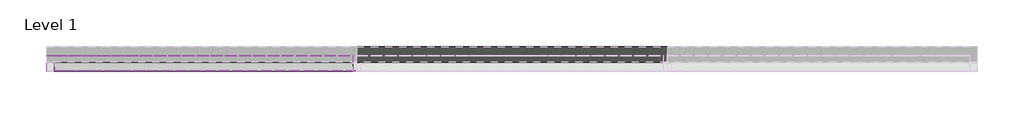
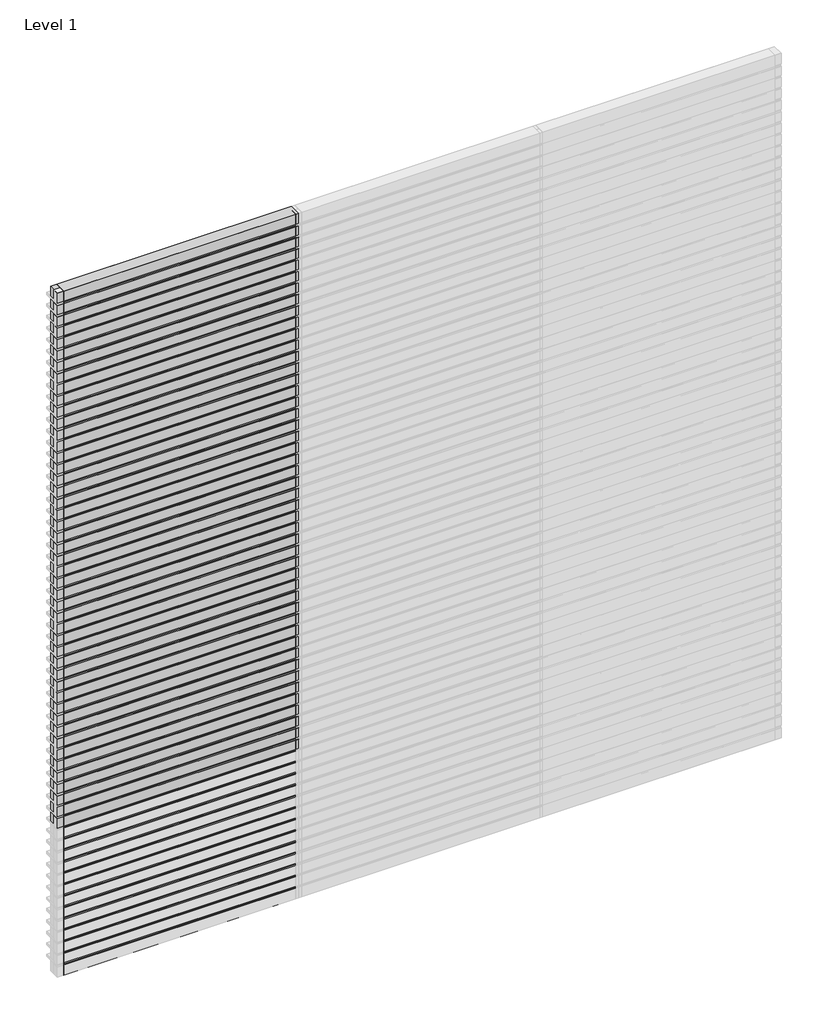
# One storey, part 2 of 6: 107 plates, 20 members.
"""IFC4 building model written with IfcOpenShell, lengths in millimetres."""

from ifc_helpers import new_model, si_unit, origin, place, context, project, spatial, transform, mapped, element, save
from components import rectangular_mullion_30cdfca6, empty_system_panel_empty_51cbbd14, empty_system_panel_empty_86242385, empty_system_panel_empty_20ea7497

model = new_model("IFC4")

# Units and contexts
model_context = context("Model", 3, world=origin())
ifc_project = project(units=[si_unit("LENGTHUNIT", "METRE", prefix="MILLI")], contexts=[model_context])

# Site, building, storey
site = spatial("IfcSite", under=ifc_project)
building = spatial("IfcBuilding", under=site)
storey = spatial("IfcBuildingStorey", under=building, Name="Level 1", Elevation=0.0)

# Members
placement = place(None, origin())
rectangular_mullion_shape = rectangular_mullion_30cdfca6(model_context)
element("IfcMember", 1, ObjectType="Rectangular Mullion : RSen_21_CWM_blade - cubic 100 - 0°_gen_duco projects", at=placement, inside=storey, context=model_context, shape_type="MappedRepresentation", body=[
    mapped(rectangular_mullion_shape, transform((2000.0, 3000.0, 100.0), x_axis=(0.0, 0.0, 1.0), y_axis=(0.0, 1.0, 0.0), z_axis=(-1.0, 0.0, 0.0))),
])
element("IfcMember", 2, ObjectType="Rectangular Mullion : RSen_21_CWM_blade - cubic 100 - 0°_gen_duco projects", at=placement, inside=storey, context=model_context, shape_type="MappedRepresentation", body=[
    mapped(rectangular_mullion_shape, transform((2000.0, 3000.0, 200.0), x_axis=(0.0, 0.0, 1.0), y_axis=(0.0, 1.0, 0.0), z_axis=(-1.0, 0.0, 0.0))),
])
element("IfcMember", 3, ObjectType="Rectangular Mullion : RSen_21_CWM_blade - cubic 100 - 0°_gen_duco projects", at=placement, inside=storey, context=model_context, shape_type="MappedRepresentation", body=[
    mapped(rectangular_mullion_shape, transform((2000.0, 3000.0, 300.0), x_axis=(0.0, 0.0, 1.0), y_axis=(0.0, 1.0, 0.0), z_axis=(-1.0, 0.0, 0.0))),
])
element("IfcMember", 4, ObjectType="Rectangular Mullion : RSen_21_CWM_blade - cubic 100 - 0°_gen_duco projects", at=placement, inside=storey, context=model_context, shape_type="MappedRepresentation", body=[
    mapped(rectangular_mullion_shape, transform((2000.0, 3000.0, 400.0), x_axis=(0.0, 0.0, 1.0), y_axis=(0.0, 1.0, 0.0), z_axis=(-1.0, 0.0, 0.0))),
])
element("IfcMember", 5, ObjectType="Rectangular Mullion : RSen_21_CWM_blade - cubic 100 - 0°_gen_duco projects", at=placement, inside=storey, context=model_context, shape_type="MappedRepresentation", body=[
    mapped(rectangular_mullion_shape, transform((2000.0, 3000.0, 500.0), x_axis=(0.0, 0.0, 1.0), y_axis=(0.0, 1.0, 0.0), z_axis=(-1.0, 0.0, 0.0))),
])
element("IfcMember", 6, ObjectType="Rectangular Mullion : RSen_21_CWM_blade - cubic 100 - 0°_gen_duco projects", at=placement, inside=storey, context=model_context, shape_type="MappedRepresentation", body=[
    mapped(rectangular_mullion_shape, transform((2000.0, 3000.0, 600.0), x_axis=(0.0, 0.0, 1.0), y_axis=(0.0, 1.0, 0.0), z_axis=(-1.0, 0.0, 0.0))),
])
element("IfcMember", 7, ObjectType="Rectangular Mullion : RSen_21_CWM_blade - cubic 100 - 0°_gen_duco projects", at=placement, inside=storey, context=model_context, shape_type="MappedRepresentation", body=[
    mapped(rectangular_mullion_shape, transform((2000.0, 3000.0, 700.0), x_axis=(0.0, 0.0, 1.0), y_axis=(0.0, 1.0, 0.0), z_axis=(-1.0, 0.0, 0.0))),
])
element("IfcMember", 8, ObjectType="Rectangular Mullion : RSen_21_CWM_blade - cubic 100 - 0°_gen_duco projects", at=placement, inside=storey, context=model_context, shape_type="MappedRepresentation", body=[
    mapped(rectangular_mullion_shape, transform((2000.0, 3000.0, 800.0), x_axis=(0.0, 0.0, 1.0), y_axis=(0.0, 1.0, 0.0), z_axis=(-1.0, 0.0, 0.0))),
])
element("IfcMember", 9, ObjectType="Rectangular Mullion : RSen_21_CWM_blade - cubic 100 - 0°_gen_duco projects", at=placement, inside=storey, context=model_context, shape_type="MappedRepresentation", body=[
    mapped(rectangular_mullion_shape, transform((2000.0, 3000.0, 900.0), x_axis=(0.0, 0.0, 1.0), y_axis=(0.0, 1.0, 0.0), z_axis=(-1.0, 0.0, 0.0))),
])
element("IfcMember", 10, ObjectType="Rectangular Mullion : RSen_21_CWM_blade - cubic 100 - 0°_gen_duco projects", at=placement, inside=storey, context=model_context, shape_type="MappedRepresentation", body=[
    mapped(rectangular_mullion_shape, transform((2000.0, 3000.0, 1000.0), x_axis=(0.0, 0.0, 1.0), y_axis=(0.0, 1.0, 0.0), z_axis=(-1.0, 0.0, 0.0))),
])
element("IfcMember", 11, ObjectType="Rectangular Mullion : RSen_21_CWM_blade - cubic 100 - 0°_gen_duco projects", at=placement, inside=storey, context=model_context, shape_type="MappedRepresentation", body=[
    mapped(rectangular_mullion_shape, transform((2000.0, 3000.0, 1100.0), x_axis=(0.0, 0.0, 1.0), y_axis=(0.0, 1.0, 0.0), z_axis=(-1.0, 0.0, 0.0))),
])
element("IfcMember", 12, ObjectType="Rectangular Mullion : RSen_21_CWM_blade - cubic 100 - 0°_gen_duco projects", at=placement, inside=storey, context=model_context, shape_type="MappedRepresentation", body=[
    mapped(rectangular_mullion_shape, transform((2000.0, 3000.0, 1200.0), x_axis=(0.0, 0.0, 1.0), y_axis=(0.0, 1.0, 0.0), z_axis=(-1.0, 0.0, 0.0))),
])
element("IfcMember", 13, ObjectType="Rectangular Mullion : RSen_21_CWM_blade - cubic 100 - 0°_gen_duco projects", at=placement, inside=storey, context=model_context, shape_type="MappedRepresentation", body=[
    mapped(rectangular_mullion_shape, transform((2000.0, 3000.0, 1300.0), x_axis=(0.0, 0.0, 1.0), y_axis=(0.0, 1.0, 0.0), z_axis=(-1.0, 0.0, 0.0))),
])
element("IfcMember", 14, ObjectType="Rectangular Mullion : RSen_21_CWM_blade - cubic 100 - 0°_gen_duco projects", at=placement, inside=storey, context=model_context, shape_type="MappedRepresentation", body=[
    mapped(rectangular_mullion_shape, transform((2000.0, 3000.0, 1400.0), x_axis=(0.0, 0.0, 1.0), y_axis=(0.0, 1.0, 0.0), z_axis=(-1.0, 0.0, 0.0))),
])
element("IfcMember", 15, ObjectType="Rectangular Mullion : RSen_21_CWM_blade - cubic 100 - 0°_gen_duco projects", at=placement, inside=storey, context=model_context, shape_type="MappedRepresentation", body=[
    mapped(rectangular_mullion_shape, transform((2000.0, 3000.0, 1500.0), x_axis=(0.0, 0.0, 1.0), y_axis=(0.0, 1.0, 0.0), z_axis=(-1.0, 0.0, 0.0))),
])
element("IfcMember", 16, ObjectType="Rectangular Mullion : RSen_21_CWM_blade - cubic 100 - 0°_gen_duco projects", at=placement, inside=storey, context=model_context, shape_type="MappedRepresentation", body=[
    mapped(rectangular_mullion_shape, transform((2000.0, 3000.0, 1600.0), x_axis=(0.0, 0.0, 1.0), y_axis=(0.0, 1.0, 0.0), z_axis=(-1.0, 0.0, 0.0))),
])
element("IfcMember", 17, ObjectType="Rectangular Mullion : RSen_21_CWM_blade - cubic 100 - 0°_gen_duco projects", at=placement, inside=storey, context=model_context, shape_type="MappedRepresentation", body=[
    mapped(rectangular_mullion_shape, transform((2000.0, 3000.0, 1700.0), x_axis=(0.0, 0.0, 1.0), y_axis=(0.0, 1.0, 0.0), z_axis=(-1.0, 0.0, 0.0))),
])
element("IfcMember", 18, ObjectType="Rectangular Mullion : RSen_21_CWM_blade - cubic 100 - 0°_gen_duco projects", at=placement, inside=storey, context=model_context, shape_type="MappedRepresentation", body=[
    mapped(rectangular_mullion_shape, transform((2000.0, 3000.0, 1800.0), x_axis=(0.0, 0.0, 1.0), y_axis=(0.0, 1.0, 0.0), z_axis=(-1.0, 0.0, 0.0))),
])
element("IfcMember", 19, ObjectType="Rectangular Mullion : RSen_21_CWM_blade - cubic 100 - 0°_gen_duco projects", at=placement, inside=storey, context=model_context, shape_type="MappedRepresentation", body=[
    mapped(rectangular_mullion_shape, transform((2000.0, 3000.0, 1900.0), x_axis=(0.0, 0.0, 1.0), y_axis=(0.0, 1.0, 0.0), z_axis=(-1.0, 0.0, 0.0))),
])
element("IfcMember", 20, ObjectType="Rectangular Mullion : RSen_21_CWM_blade - cubic 100 - 0°_gen_duco projects", at=placement, inside=storey, context=model_context, shape_type="MappedRepresentation", body=[
    mapped(rectangular_mullion_shape, transform((2000.0, 3000.0, 2000.0), x_axis=(0.0, 0.0, 1.0), y_axis=(0.0, 1.0, 0.0), z_axis=(-1.0, 0.0, 0.0))),
])

# Plates
empty_system_panel_empty_shape = empty_system_panel_empty_51cbbd14(model_context)
element("IfcPlate", 21, ObjectType="Empty System Panel : Empty", at=placement, inside=storey, context=model_context, shape_type="MappedRepresentation", body=[
    mapped(empty_system_panel_empty_shape, transform((1000.0, 3000.0, 5910.0), x_axis=(-1.0, 0.0, 0.0), y_axis=(0.0, -1.0, 0.0), z_axis=(0.0, 0.0, 1.0))),
])
empty_system_panel_empty_2_shape = empty_system_panel_empty_86242385(model_context)
element("IfcPlate", 22, ObjectType="Empty System Panel : Empty", at=placement, inside=storey, context=model_context, shape_type="MappedRepresentation", body=[
    mapped(empty_system_panel_empty_2_shape, transform((1000.0, 3000.0, 1310.0), x_axis=(-1.0, 0.0, 0.0), y_axis=(0.0, -1.0, 0.0), z_axis=(0.0, 0.0, 1.0))),
])
element("IfcPlate", 23, ObjectType="Empty System Panel : Empty", at=placement, inside=storey, context=model_context, shape_type="MappedRepresentation", body=[
    mapped(empty_system_panel_empty_2_shape, transform((1000.0, 3000.0, 1410.0), x_axis=(-1.0, 0.0, 0.0), y_axis=(0.0, -1.0, 0.0), z_axis=(0.0, 0.0, 1.0))),
])
element("IfcPlate", 24, ObjectType="Empty System Panel : Empty", at=placement, inside=storey, context=model_context, shape_type="MappedRepresentation", body=[
    mapped(empty_system_panel_empty_2_shape, transform((1000.0, 3000.0, 1510.0), x_axis=(-1.0, 0.0, 0.0), y_axis=(0.0, -1.0, 0.0), z_axis=(0.0, 0.0, 1.0))),
])
element("IfcPlate", 25, ObjectType="Empty System Panel : Empty", at=placement, inside=storey, context=model_context, shape_type="MappedRepresentation", body=[
    mapped(empty_system_panel_empty_2_shape, transform((1000.0, 3000.0, 1610.0), x_axis=(-1.0, 0.0, 0.0), y_axis=(0.0, -1.0, 0.0), z_axis=(0.0, 0.0, 1.0))),
])
element("IfcPlate", 26, ObjectType="Empty System Panel : Empty", at=placement, inside=storey, context=model_context, shape_type="MappedRepresentation", body=[
    mapped(empty_system_panel_empty_2_shape, transform((1000.0, 3000.0, 1710.0), x_axis=(-1.0, 0.0, 0.0), y_axis=(0.0, -1.0, 0.0), z_axis=(0.0, 0.0, 1.0))),
])
element("IfcPlate", 27, ObjectType="Empty System Panel : Empty", at=placement, inside=storey, context=model_context, shape_type="MappedRepresentation", body=[
    mapped(empty_system_panel_empty_2_shape, transform((1000.0, 3000.0, 1810.0), x_axis=(-1.0, 0.0, 0.0), y_axis=(0.0, -1.0, 0.0), z_axis=(0.0, 0.0, 1.0))),
])
element("IfcPlate", 28, ObjectType="Empty System Panel : Empty", at=placement, inside=storey, context=model_context, shape_type="MappedRepresentation", body=[
    mapped(empty_system_panel_empty_2_shape, transform((1000.0, 3000.0, 1910.0), x_axis=(-1.0, 0.0, 0.0), y_axis=(0.0, -1.0, 0.0), z_axis=(0.0, 0.0, 1.0))),
])
element("IfcPlate", 29, ObjectType="Empty System Panel : Empty", at=placement, inside=storey, context=model_context, shape_type="MappedRepresentation", body=[
    mapped(empty_system_panel_empty_2_shape, transform((1000.0, 3000.0, 2010.0), x_axis=(-1.0, 0.0, 0.0), y_axis=(0.0, -1.0, 0.0), z_axis=(0.0, 0.0, 1.0))),
])
element("IfcPlate", 30, ObjectType="Empty System Panel : Empty", at=placement, inside=storey, context=model_context, shape_type="MappedRepresentation", body=[
    mapped(empty_system_panel_empty_2_shape, transform((1000.0, 3000.0, 2110.0), x_axis=(-1.0, 0.0, 0.0), y_axis=(0.0, -1.0, 0.0), z_axis=(0.0, 0.0, 1.0))),
])
element("IfcPlate", 31, ObjectType="Empty System Panel : Empty", at=placement, inside=storey, context=model_context, shape_type="MappedRepresentation", body=[
    mapped(empty_system_panel_empty_2_shape, transform((1000.0, 3000.0, 2210.0), x_axis=(-1.0, 0.0, 0.0), y_axis=(0.0, -1.0, 0.0), z_axis=(0.0, 0.0, 1.0))),
])
element("IfcPlate", 32, ObjectType="Empty System Panel : Empty", at=placement, inside=storey, context=model_context, shape_type="MappedRepresentation", body=[
    mapped(empty_system_panel_empty_2_shape, transform((1000.0, 3000.0, 2310.0), x_axis=(-1.0, 0.0, 0.0), y_axis=(0.0, -1.0, 0.0), z_axis=(0.0, 0.0, 1.0))),
])
element("IfcPlate", 33, ObjectType="Empty System Panel : Empty", at=placement, inside=storey, context=model_context, shape_type="MappedRepresentation", body=[
    mapped(empty_system_panel_empty_2_shape, transform((1000.0, 3000.0, 2410.0), x_axis=(-1.0, 0.0, 0.0), y_axis=(0.0, -1.0, 0.0), z_axis=(0.0, 0.0, 1.0))),
])
element("IfcPlate", 34, ObjectType="Empty System Panel : Empty", at=placement, inside=storey, context=model_context, shape_type="MappedRepresentation", body=[
    mapped(empty_system_panel_empty_2_shape, transform((1000.0, 3000.0, 2510.0), x_axis=(-1.0, 0.0, 0.0), y_axis=(0.0, -1.0, 0.0), z_axis=(0.0, 0.0, 1.0))),
])
element("IfcPlate", 35, ObjectType="Empty System Panel : Empty", at=placement, inside=storey, context=model_context, shape_type="MappedRepresentation", body=[
    mapped(empty_system_panel_empty_2_shape, transform((1000.0, 3000.0, 2610.0), x_axis=(-1.0, 0.0, 0.0), y_axis=(0.0, -1.0, 0.0), z_axis=(0.0, 0.0, 1.0))),
])
element("IfcPlate", 36, ObjectType="Empty System Panel : Empty", at=placement, inside=storey, context=model_context, shape_type="MappedRepresentation", body=[
    mapped(empty_system_panel_empty_2_shape, transform((1000.0, 3000.0, 2710.0), x_axis=(-1.0, 0.0, 0.0), y_axis=(0.0, -1.0, 0.0), z_axis=(0.0, 0.0, 1.0))),
])
element("IfcPlate", 37, ObjectType="Empty System Panel : Empty", at=placement, inside=storey, context=model_context, shape_type="MappedRepresentation", body=[
    mapped(empty_system_panel_empty_2_shape, transform((1000.0, 3000.0, 2810.0), x_axis=(-1.0, 0.0, 0.0), y_axis=(0.0, -1.0, 0.0), z_axis=(0.0, 0.0, 1.0))),
])
element("IfcPlate", 38, ObjectType="Empty System Panel : Empty", at=placement, inside=storey, context=model_context, shape_type="MappedRepresentation", body=[
    mapped(empty_system_panel_empty_2_shape, transform((1000.0, 3000.0, 2910.0), x_axis=(-1.0, 0.0, 0.0), y_axis=(0.0, -1.0, 0.0), z_axis=(0.0, 0.0, 1.0))),
])
element("IfcPlate", 39, ObjectType="Empty System Panel : Empty", at=placement, inside=storey, context=model_context, shape_type="MappedRepresentation", body=[
    mapped(empty_system_panel_empty_2_shape, transform((1000.0, 3000.0, 3010.0), x_axis=(-1.0, 0.0, 0.0), y_axis=(0.0, -1.0, 0.0), z_axis=(0.0, 0.0, 1.0))),
])
element("IfcPlate", 40, ObjectType="Empty System Panel : Empty", at=placement, inside=storey, context=model_context, shape_type="MappedRepresentation", body=[
    mapped(empty_system_panel_empty_2_shape, transform((1000.0, 3000.0, 3110.0), x_axis=(-1.0, 0.0, 0.0), y_axis=(0.0, -1.0, 0.0), z_axis=(0.0, 0.0, 1.0))),
])
element("IfcPlate", 41, ObjectType="Empty System Panel : Empty", at=placement, inside=storey, context=model_context, shape_type="MappedRepresentation", body=[
    mapped(empty_system_panel_empty_2_shape, transform((1000.0, 3000.0, 3210.0), x_axis=(-1.0, 0.0, 0.0), y_axis=(0.0, -1.0, 0.0), z_axis=(0.0, 0.0, 1.0))),
])
element("IfcPlate", 42, ObjectType="Empty System Panel : Empty", at=placement, inside=storey, context=model_context, shape_type="MappedRepresentation", body=[
    mapped(empty_system_panel_empty_2_shape, transform((1000.0, 3000.0, 3310.0), x_axis=(-1.0, 0.0, 0.0), y_axis=(0.0, -1.0, 0.0), z_axis=(0.0, 0.0, 1.0))),
])
element("IfcPlate", 43, ObjectType="Empty System Panel : Empty", at=placement, inside=storey, context=model_context, shape_type="MappedRepresentation", body=[
    mapped(empty_system_panel_empty_2_shape, transform((1000.0, 3000.0, 3410.0), x_axis=(-1.0, 0.0, 0.0), y_axis=(0.0, -1.0, 0.0), z_axis=(0.0, 0.0, 1.0))),
])
element("IfcPlate", 44, ObjectType="Empty System Panel : Empty", at=placement, inside=storey, context=model_context, shape_type="MappedRepresentation", body=[
    mapped(empty_system_panel_empty_2_shape, transform((1000.0, 3000.0, 3510.0), x_axis=(-1.0, 0.0, 0.0), y_axis=(0.0, -1.0, 0.0), z_axis=(0.0, 0.0, 1.0))),
])
element("IfcPlate", 45, ObjectType="Empty System Panel : Empty", at=placement, inside=storey, context=model_context, shape_type="MappedRepresentation", body=[
    mapped(empty_system_panel_empty_2_shape, transform((1000.0, 3000.0, 3610.0), x_axis=(-1.0, 0.0, 0.0), y_axis=(0.0, -1.0, 0.0), z_axis=(0.0, 0.0, 1.0))),
])
element("IfcPlate", 46, ObjectType="Empty System Panel : Empty", at=placement, inside=storey, context=model_context, shape_type="MappedRepresentation", body=[
    mapped(empty_system_panel_empty_2_shape, transform((1000.0, 3000.0, 3710.0), x_axis=(-1.0, 0.0, 0.0), y_axis=(0.0, -1.0, 0.0), z_axis=(0.0, 0.0, 1.0))),
])
element("IfcPlate", 47, ObjectType="Empty System Panel : Empty", at=placement, inside=storey, context=model_context, shape_type="MappedRepresentation", body=[
    mapped(empty_system_panel_empty_2_shape, transform((1000.0, 3000.0, 3810.0), x_axis=(-1.0, 0.0, 0.0), y_axis=(0.0, -1.0, 0.0), z_axis=(0.0, 0.0, 1.0))),
])
element("IfcPlate", 48, ObjectType="Empty System Panel : Empty", at=placement, inside=storey, context=model_context, shape_type="MappedRepresentation", body=[
    mapped(empty_system_panel_empty_2_shape, transform((1000.0, 3000.0, 3910.0), x_axis=(-1.0, 0.0, 0.0), y_axis=(0.0, -1.0, 0.0), z_axis=(0.0, 0.0, 1.0))),
])
element("IfcPlate", 49, ObjectType="Empty System Panel : Empty", at=placement, inside=storey, context=model_context, shape_type="MappedRepresentation", body=[
    mapped(empty_system_panel_empty_2_shape, transform((1000.0, 3000.0, 4010.0), x_axis=(-1.0, 0.0, 0.0), y_axis=(0.0, -1.0, 0.0), z_axis=(0.0, 0.0, 1.0))),
])
element("IfcPlate", 50, ObjectType="Empty System Panel : Empty", at=placement, inside=storey, context=model_context, shape_type="MappedRepresentation", body=[
    mapped(empty_system_panel_empty_2_shape, transform((1000.0, 3000.0, 4110.0), x_axis=(-1.0, 0.0, 0.0), y_axis=(0.0, -1.0, 0.0), z_axis=(0.0, 0.0, 1.0))),
])
element("IfcPlate", 51, ObjectType="Empty System Panel : Empty", at=placement, inside=storey, context=model_context, shape_type="MappedRepresentation", body=[
    mapped(empty_system_panel_empty_2_shape, transform((1000.0, 3000.0, 4210.0), x_axis=(-1.0, 0.0, 0.0), y_axis=(0.0, -1.0, 0.0), z_axis=(0.0, 0.0, 1.0))),
])
element("IfcPlate", 52, ObjectType="Empty System Panel : Empty", at=placement, inside=storey, context=model_context, shape_type="MappedRepresentation", body=[
    mapped(empty_system_panel_empty_2_shape, transform((1000.0, 3000.0, 4310.0), x_axis=(-1.0, 0.0, 0.0), y_axis=(0.0, -1.0, 0.0), z_axis=(0.0, 0.0, 1.0))),
])
element("IfcPlate", 53, ObjectType="Empty System Panel : Empty", at=placement, inside=storey, context=model_context, shape_type="MappedRepresentation", body=[
    mapped(empty_system_panel_empty_2_shape, transform((1000.0, 3000.0, 4410.0), x_axis=(-1.0, 0.0, 0.0), y_axis=(0.0, -1.0, 0.0), z_axis=(0.0, 0.0, 1.0))),
])
element("IfcPlate", 54, ObjectType="Empty System Panel : Empty", at=placement, inside=storey, context=model_context, shape_type="MappedRepresentation", body=[
    mapped(empty_system_panel_empty_2_shape, transform((1000.0, 3000.0, 4510.0), x_axis=(-1.0, 0.0, 0.0), y_axis=(0.0, -1.0, 0.0), z_axis=(0.0, 0.0, 1.0))),
])
element("IfcPlate", 55, ObjectType="Empty System Panel : Empty", at=placement, inside=storey, context=model_context, shape_type="MappedRepresentation", body=[
    mapped(empty_system_panel_empty_2_shape, transform((1000.0, 3000.0, 4610.0), x_axis=(-1.0, 0.0, 0.0), y_axis=(0.0, -1.0, 0.0), z_axis=(0.0, 0.0, 1.0))),
])
element("IfcPlate", 56, ObjectType="Empty System Panel : Empty", at=placement, inside=storey, context=model_context, shape_type="MappedRepresentation", body=[
    mapped(empty_system_panel_empty_2_shape, transform((1000.0, 3000.0, 4710.0), x_axis=(-1.0, 0.0, 0.0), y_axis=(0.0, -1.0, 0.0), z_axis=(0.0, 0.0, 1.0))),
])
element("IfcPlate", 57, ObjectType="Empty System Panel : Empty", at=placement, inside=storey, context=model_context, shape_type="MappedRepresentation", body=[
    mapped(empty_system_panel_empty_2_shape, transform((1000.0, 3000.0, 4810.0), x_axis=(-1.0, 0.0, 0.0), y_axis=(0.0, -1.0, 0.0), z_axis=(0.0, 0.0, 1.0))),
])
element("IfcPlate", 58, ObjectType="Empty System Panel : Empty", at=placement, inside=storey, context=model_context, shape_type="MappedRepresentation", body=[
    mapped(empty_system_panel_empty_2_shape, transform((1000.0, 3000.0, 4910.0), x_axis=(-1.0, 0.0, 0.0), y_axis=(0.0, -1.0, 0.0), z_axis=(0.0, 0.0, 1.0))),
])
element("IfcPlate", 59, ObjectType="Empty System Panel : Empty", at=placement, inside=storey, context=model_context, shape_type="MappedRepresentation", body=[
    mapped(empty_system_panel_empty_2_shape, transform((1000.0, 3000.0, 5010.0), x_axis=(-1.0, 0.0, 0.0), y_axis=(0.0, -1.0, 0.0), z_axis=(0.0, 0.0, 1.0))),
])
element("IfcPlate", 60, ObjectType="Empty System Panel : Empty", at=placement, inside=storey, context=model_context, shape_type="MappedRepresentation", body=[
    mapped(empty_system_panel_empty_2_shape, transform((1000.0, 3000.0, 5110.0), x_axis=(-1.0, 0.0, 0.0), y_axis=(0.0, -1.0, 0.0), z_axis=(0.0, 0.0, 1.0))),
])
element("IfcPlate", 61, ObjectType="Empty System Panel : Empty", at=placement, inside=storey, context=model_context, shape_type="MappedRepresentation", body=[
    mapped(empty_system_panel_empty_2_shape, transform((1000.0, 3000.0, 5210.0), x_axis=(-1.0, 0.0, 0.0), y_axis=(0.0, -1.0, 0.0), z_axis=(0.0, 0.0, 1.0))),
])
element("IfcPlate", 62, ObjectType="Empty System Panel : Empty", at=placement, inside=storey, context=model_context, shape_type="MappedRepresentation", body=[
    mapped(empty_system_panel_empty_2_shape, transform((1000.0, 3000.0, 5310.0), x_axis=(-1.0, 0.0, 0.0), y_axis=(0.0, -1.0, 0.0), z_axis=(0.0, 0.0, 1.0))),
])
element("IfcPlate", 63, ObjectType="Empty System Panel : Empty", at=placement, inside=storey, context=model_context, shape_type="MappedRepresentation", body=[
    mapped(empty_system_panel_empty_2_shape, transform((1000.0, 3000.0, 5410.0), x_axis=(-1.0, 0.0, 0.0), y_axis=(0.0, -1.0, 0.0), z_axis=(0.0, 0.0, 1.0))),
])
element("IfcPlate", 64, ObjectType="Empty System Panel : Empty", at=placement, inside=storey, context=model_context, shape_type="MappedRepresentation", body=[
    mapped(empty_system_panel_empty_2_shape, transform((1000.0, 3000.0, 5510.0), x_axis=(-1.0, 0.0, 0.0), y_axis=(0.0, -1.0, 0.0), z_axis=(0.0, 0.0, 1.0))),
])
element("IfcPlate", 65, ObjectType="Empty System Panel : Empty", at=placement, inside=storey, context=model_context, shape_type="MappedRepresentation", body=[
    mapped(empty_system_panel_empty_2_shape, transform((1000.0, 3000.0, 5610.0), x_axis=(-1.0, 0.0, 0.0), y_axis=(0.0, -1.0, 0.0), z_axis=(0.0, 0.0, 1.0))),
])
element("IfcPlate", 66, ObjectType="Empty System Panel : Empty", at=placement, inside=storey, context=model_context, shape_type="MappedRepresentation", body=[
    mapped(empty_system_panel_empty_2_shape, transform((1000.0, 3000.0, 5710.0), x_axis=(-1.0, 0.0, 0.0), y_axis=(0.0, -1.0, 0.0), z_axis=(0.0, 0.0, 1.0))),
])
element("IfcPlate", 67, ObjectType="Empty System Panel : Empty", at=placement, inside=storey, context=model_context, shape_type="MappedRepresentation", body=[
    mapped(empty_system_panel_empty_2_shape, transform((1000.0, 3000.0, 5810.0), x_axis=(-1.0, 0.0, 0.0), y_axis=(0.0, -1.0, 0.0), z_axis=(0.0, 0.0, 1.0))),
])
empty_system_panel_empty_3_shape = empty_system_panel_empty_20ea7497(model_context)
element("IfcPlate", 68, ObjectType="Empty System Panel : Empty", at=placement, inside=storey, context=model_context, shape_type="MappedRepresentation", body=[
    mapped(empty_system_panel_empty_3_shape, transform((1012.5, 3000.0, 0.0), x_axis=(-1.0, 0.0, 0.0), y_axis=(0.0, -1.0, 0.0), z_axis=(0.0, 0.0, 1.0))),
])
element("IfcPlate", 69, ObjectType="Empty System Panel : Empty", at=placement, inside=storey, context=model_context, shape_type="MappedRepresentation", body=[
    mapped(empty_system_panel_empty_3_shape, transform((1012.5, 3000.0, 100.0), x_axis=(-1.0, 0.0, 0.0), y_axis=(0.0, -1.0, 0.0), z_axis=(0.0, 0.0, 1.0))),
])
element("IfcPlate", 70, ObjectType="Empty System Panel : Empty", at=placement, inside=storey, context=model_context, shape_type="MappedRepresentation", body=[
    mapped(empty_system_panel_empty_3_shape, transform((1012.5, 3000.0, 200.0), x_axis=(-1.0, 0.0, 0.0), y_axis=(0.0, -1.0, 0.0), z_axis=(0.0, 0.0, 1.0))),
])
element("IfcPlate", 71, ObjectType="Empty System Panel : Empty", at=placement, inside=storey, context=model_context, shape_type="MappedRepresentation", body=[
    mapped(empty_system_panel_empty_3_shape, transform((1012.5, 3000.0, 300.0), x_axis=(-1.0, 0.0, 0.0), y_axis=(0.0, -1.0, 0.0), z_axis=(0.0, 0.0, 1.0))),
])
element("IfcPlate", 72, ObjectType="Empty System Panel : Empty", at=placement, inside=storey, context=model_context, shape_type="MappedRepresentation", body=[
    mapped(empty_system_panel_empty_3_shape, transform((1012.5, 3000.0, 400.0), x_axis=(-1.0, 0.0, 0.0), y_axis=(0.0, -1.0, 0.0), z_axis=(0.0, 0.0, 1.0))),
])
element("IfcPlate", 73, ObjectType="Empty System Panel : Empty", at=placement, inside=storey, context=model_context, shape_type="MappedRepresentation", body=[
    mapped(empty_system_panel_empty_3_shape, transform((1012.5, 3000.0, 500.0), x_axis=(-1.0, 0.0, 0.0), y_axis=(0.0, -1.0, 0.0), z_axis=(0.0, 0.0, 1.0))),
])
element("IfcPlate", 74, ObjectType="Empty System Panel : Empty", at=placement, inside=storey, context=model_context, shape_type="MappedRepresentation", body=[
    mapped(empty_system_panel_empty_3_shape, transform((1012.5, 3000.0, 600.0), x_axis=(-1.0, 0.0, 0.0), y_axis=(0.0, -1.0, 0.0), z_axis=(0.0, 0.0, 1.0))),
])
element("IfcPlate", 75, ObjectType="Empty System Panel : Empty", at=placement, inside=storey, context=model_context, shape_type="MappedRepresentation", body=[
    mapped(empty_system_panel_empty_3_shape, transform((1012.5, 3000.0, 700.0), x_axis=(-1.0, 0.0, 0.0), y_axis=(0.0, -1.0, 0.0), z_axis=(0.0, 0.0, 1.0))),
])
element("IfcPlate", 76, ObjectType="Empty System Panel : Empty", at=placement, inside=storey, context=model_context, shape_type="MappedRepresentation", body=[
    mapped(empty_system_panel_empty_3_shape, transform((1012.5, 3000.0, 800.0), x_axis=(-1.0, 0.0, 0.0), y_axis=(0.0, -1.0, 0.0), z_axis=(0.0, 0.0, 1.0))),
])
element("IfcPlate", 77, ObjectType="Empty System Panel : Empty", at=placement, inside=storey, context=model_context, shape_type="MappedRepresentation", body=[
    mapped(empty_system_panel_empty_3_shape, transform((1012.5, 3000.0, 900.0), x_axis=(-1.0, 0.0, 0.0), y_axis=(0.0, -1.0, 0.0), z_axis=(0.0, 0.0, 1.0))),
])
element("IfcPlate", 78, ObjectType="Empty System Panel : Empty", at=placement, inside=storey, context=model_context, shape_type="MappedRepresentation", body=[
    mapped(empty_system_panel_empty_3_shape, transform((1012.5, 3000.0, 1000.0), x_axis=(-1.0, 0.0, 0.0), y_axis=(0.0, -1.0, 0.0), z_axis=(0.0, 0.0, 1.0))),
])
element("IfcPlate", 79, ObjectType="Empty System Panel : Empty", at=placement, inside=storey, context=model_context, shape_type="MappedRepresentation", body=[
    mapped(empty_system_panel_empty_3_shape, transform((1012.5, 3000.0, 1100.0), x_axis=(-1.0, 0.0, 0.0), y_axis=(0.0, -1.0, 0.0), z_axis=(0.0, 0.0, 1.0))),
])
element("IfcPlate", 80, ObjectType="Empty System Panel : Empty", at=placement, inside=storey, context=model_context, shape_type="MappedRepresentation", body=[
    mapped(empty_system_panel_empty_3_shape, transform((1012.5, 3000.0, 1200.0), x_axis=(-1.0, 0.0, 0.0), y_axis=(0.0, -1.0, 0.0), z_axis=(0.0, 0.0, 1.0))),
])
element("IfcPlate", 81, ObjectType="Empty System Panel : Empty", at=placement, inside=storey, context=model_context, shape_type="MappedRepresentation", body=[
    mapped(empty_system_panel_empty_3_shape, transform((1012.5, 3000.0, 1300.0), x_axis=(-1.0, 0.0, 0.0), y_axis=(0.0, -1.0, 0.0), z_axis=(0.0, 0.0, 1.0))),
])
element("IfcPlate", 82, ObjectType="Empty System Panel : Empty", at=placement, inside=storey, context=model_context, shape_type="MappedRepresentation", body=[
    mapped(empty_system_panel_empty_3_shape, transform((1012.5, 3000.0, 1400.0), x_axis=(-1.0, 0.0, 0.0), y_axis=(0.0, -1.0, 0.0), z_axis=(0.0, 0.0, 1.0))),
])
element("IfcPlate", 83, ObjectType="Empty System Panel : Empty", at=placement, inside=storey, context=model_context, shape_type="MappedRepresentation", body=[
    mapped(empty_system_panel_empty_3_shape, transform((1012.5, 3000.0, 1500.0), x_axis=(-1.0, 0.0, 0.0), y_axis=(0.0, -1.0, 0.0), z_axis=(0.0, 0.0, 1.0))),
])
element("IfcPlate", 84, ObjectType="Empty System Panel : Empty", at=placement, inside=storey, context=model_context, shape_type="MappedRepresentation", body=[
    mapped(empty_system_panel_empty_3_shape, transform((1012.5, 3000.0, 1600.0), x_axis=(-1.0, 0.0, 0.0), y_axis=(0.0, -1.0, 0.0), z_axis=(0.0, 0.0, 1.0))),
])
element("IfcPlate", 85, ObjectType="Empty System Panel : Empty", at=placement, inside=storey, context=model_context, shape_type="MappedRepresentation", body=[
    mapped(empty_system_panel_empty_3_shape, transform((1012.5, 3000.0, 1700.0), x_axis=(-1.0, 0.0, 0.0), y_axis=(0.0, -1.0, 0.0), z_axis=(0.0, 0.0, 1.0))),
])
element("IfcPlate", 86, ObjectType="Empty System Panel : Empty", at=placement, inside=storey, context=model_context, shape_type="MappedRepresentation", body=[
    mapped(empty_system_panel_empty_3_shape, transform((1012.5, 3000.0, 1800.0), x_axis=(-1.0, 0.0, 0.0), y_axis=(0.0, -1.0, 0.0), z_axis=(0.0, 0.0, 1.0))),
])
element("IfcPlate", 87, ObjectType="Empty System Panel : Empty", at=placement, inside=storey, context=model_context, shape_type="MappedRepresentation", body=[
    mapped(empty_system_panel_empty_3_shape, transform((1012.5, 3000.0, 1900.0), x_axis=(-1.0, 0.0, 0.0), y_axis=(0.0, -1.0, 0.0), z_axis=(0.0, 0.0, 1.0))),
])
element("IfcPlate", 88, ObjectType="Empty System Panel : Empty", at=placement, inside=storey, context=model_context, shape_type="MappedRepresentation", body=[
    mapped(empty_system_panel_empty_3_shape, transform((1012.5, 3000.0, 2000.0), x_axis=(-1.0, 0.0, 0.0), y_axis=(0.0, -1.0, 0.0), z_axis=(0.0, 0.0, 1.0))),
])
element("IfcPlate", 89, ObjectType="Empty System Panel : Empty", at=placement, inside=storey, context=model_context, shape_type="MappedRepresentation", body=[
    mapped(empty_system_panel_empty_3_shape, transform((1012.5, 3000.0, 2100.0), x_axis=(-1.0, 0.0, 0.0), y_axis=(0.0, -1.0, 0.0), z_axis=(0.0, 0.0, 1.0))),
])
element("IfcPlate", 90, ObjectType="Empty System Panel : Empty", at=placement, inside=storey, context=model_context, shape_type="MappedRepresentation", body=[
    mapped(empty_system_panel_empty_3_shape, transform((1012.5, 3000.0, 2200.0), x_axis=(-1.0, 0.0, 0.0), y_axis=(0.0, -1.0, 0.0), z_axis=(0.0, 0.0, 1.0))),
])
element("IfcPlate", 91, ObjectType="Empty System Panel : Empty", at=placement, inside=storey, context=model_context, shape_type="MappedRepresentation", body=[
    mapped(empty_system_panel_empty_3_shape, transform((1012.5, 3000.0, 2300.0), x_axis=(-1.0, 0.0, 0.0), y_axis=(0.0, -1.0, 0.0), z_axis=(0.0, 0.0, 1.0))),
])
element("IfcPlate", 92, ObjectType="Empty System Panel : Empty", at=placement, inside=storey, context=model_context, shape_type="MappedRepresentation", body=[
    mapped(empty_system_panel_empty_3_shape, transform((1012.5, 3000.0, 2400.0), x_axis=(-1.0, 0.0, 0.0), y_axis=(0.0, -1.0, 0.0), z_axis=(0.0, 0.0, 1.0))),
])
element("IfcPlate", 93, ObjectType="Empty System Panel : Empty", at=placement, inside=storey, context=model_context, shape_type="MappedRepresentation", body=[
    mapped(empty_system_panel_empty_3_shape, transform((1012.5, 3000.0, 2500.0), x_axis=(-1.0, 0.0, 0.0), y_axis=(0.0, -1.0, 0.0), z_axis=(0.0, 0.0, 1.0))),
])
element("IfcPlate", 94, ObjectType="Empty System Panel : Empty", at=placement, inside=storey, context=model_context, shape_type="MappedRepresentation", body=[
    mapped(empty_system_panel_empty_3_shape, transform((1012.5, 3000.0, 2600.0), x_axis=(-1.0, 0.0, 0.0), y_axis=(0.0, -1.0, 0.0), z_axis=(0.0, 0.0, 1.0))),
])
element("IfcPlate", 95, ObjectType="Empty System Panel : Empty", at=placement, inside=storey, context=model_context, shape_type="MappedRepresentation", body=[
    mapped(empty_system_panel_empty_3_shape, transform((1012.5, 3000.0, 2700.0), x_axis=(-1.0, 0.0, 0.0), y_axis=(0.0, -1.0, 0.0), z_axis=(0.0, 0.0, 1.0))),
])
element("IfcPlate", 96, ObjectType="Empty System Panel : Empty", at=placement, inside=storey, context=model_context, shape_type="MappedRepresentation", body=[
    mapped(empty_system_panel_empty_3_shape, transform((1012.5, 3000.0, 2800.0), x_axis=(-1.0, 0.0, 0.0), y_axis=(0.0, -1.0, 0.0), z_axis=(0.0, 0.0, 1.0))),
])
element("IfcPlate", 97, ObjectType="Empty System Panel : Empty", at=placement, inside=storey, context=model_context, shape_type="MappedRepresentation", body=[
    mapped(empty_system_panel_empty_3_shape, transform((1012.5, 3000.0, 2900.0), x_axis=(-1.0, 0.0, 0.0), y_axis=(0.0, -1.0, 0.0), z_axis=(0.0, 0.0, 1.0))),
])
element("IfcPlate", 98, ObjectType="Empty System Panel : Empty", at=placement, inside=storey, context=model_context, shape_type="MappedRepresentation", body=[
    mapped(empty_system_panel_empty_3_shape, transform((1012.5, 3000.0, 3000.0), x_axis=(-1.0, 0.0, 0.0), y_axis=(0.0, -1.0, 0.0), z_axis=(0.0, 0.0, 1.0))),
])
element("IfcPlate", 99, ObjectType="Empty System Panel : Empty", at=placement, inside=storey, context=model_context, shape_type="MappedRepresentation", body=[
    mapped(empty_system_panel_empty_3_shape, transform((1012.5, 3000.0, 3100.0), x_axis=(-1.0, 0.0, 0.0), y_axis=(0.0, -1.0, 0.0), z_axis=(0.0, 0.0, 1.0))),
])
element("IfcPlate", 100, ObjectType="Empty System Panel : Empty", at=placement, inside=storey, context=model_context, shape_type="MappedRepresentation", body=[
    mapped(empty_system_panel_empty_3_shape, transform((1012.5, 3000.0, 3200.0), x_axis=(-1.0, 0.0, 0.0), y_axis=(0.0, -1.0, 0.0), z_axis=(0.0, 0.0, 1.0))),
])
element("IfcPlate", 101, ObjectType="Empty System Panel : Empty", at=placement, inside=storey, context=model_context, shape_type="MappedRepresentation", body=[
    mapped(empty_system_panel_empty_3_shape, transform((1012.5, 3000.0, 3300.0), x_axis=(-1.0, 0.0, 0.0), y_axis=(0.0, -1.0, 0.0), z_axis=(0.0, 0.0, 1.0))),
])
element("IfcPlate", 102, ObjectType="Empty System Panel : Empty", at=placement, inside=storey, context=model_context, shape_type="MappedRepresentation", body=[
    mapped(empty_system_panel_empty_3_shape, transform((1012.5, 3000.0, 3400.0), x_axis=(-1.0, 0.0, 0.0), y_axis=(0.0, -1.0, 0.0), z_axis=(0.0, 0.0, 1.0))),
])
element("IfcPlate", 103, ObjectType="Empty System Panel : Empty", at=placement, inside=storey, context=model_context, shape_type="MappedRepresentation", body=[
    mapped(empty_system_panel_empty_3_shape, transform((1012.5, 3000.0, 3500.0), x_axis=(-1.0, 0.0, 0.0), y_axis=(0.0, -1.0, 0.0), z_axis=(0.0, 0.0, 1.0))),
])
element("IfcPlate", 104, ObjectType="Empty System Panel : Empty", at=placement, inside=storey, context=model_context, shape_type="MappedRepresentation", body=[
    mapped(empty_system_panel_empty_3_shape, transform((1012.5, 3000.0, 3600.0), x_axis=(-1.0, 0.0, 0.0), y_axis=(0.0, -1.0, 0.0), z_axis=(0.0, 0.0, 1.0))),
])
element("IfcPlate", 105, ObjectType="Empty System Panel : Empty", at=placement, inside=storey, context=model_context, shape_type="MappedRepresentation", body=[
    mapped(empty_system_panel_empty_3_shape, transform((1012.5, 3000.0, 3700.0), x_axis=(-1.0, 0.0, 0.0), y_axis=(0.0, -1.0, 0.0), z_axis=(0.0, 0.0, 1.0))),
])
element("IfcPlate", 106, ObjectType="Empty System Panel : Empty", at=placement, inside=storey, context=model_context, shape_type="MappedRepresentation", body=[
    mapped(empty_system_panel_empty_3_shape, transform((1012.5, 3000.0, 3800.0), x_axis=(-1.0, 0.0, 0.0), y_axis=(0.0, -1.0, 0.0), z_axis=(0.0, 0.0, 1.0))),
])
element("IfcPlate", 107, ObjectType="Empty System Panel : Empty", at=placement, inside=storey, context=model_context, shape_type="MappedRepresentation", body=[
    mapped(empty_system_panel_empty_3_shape, transform((1012.5, 3000.0, 3900.0), x_axis=(-1.0, 0.0, 0.0), y_axis=(0.0, -1.0, 0.0), z_axis=(0.0, 0.0, 1.0))),
])
element("IfcPlate", 108, ObjectType="Empty System Panel : Empty", at=placement, inside=storey, context=model_context, shape_type="MappedRepresentation", body=[
    mapped(empty_system_panel_empty_3_shape, transform((1012.5, 3000.0, 4000.0), x_axis=(-1.0, 0.0, 0.0), y_axis=(0.0, -1.0, 0.0), z_axis=(0.0, 0.0, 1.0))),
])
element("IfcPlate", 109, ObjectType="Empty System Panel : Empty", at=placement, inside=storey, context=model_context, shape_type="MappedRepresentation", body=[
    mapped(empty_system_panel_empty_3_shape, transform((1012.5, 3000.0, 4100.0), x_axis=(-1.0, 0.0, 0.0), y_axis=(0.0, -1.0, 0.0), z_axis=(0.0, 0.0, 1.0))),
])
element("IfcPlate", 110, ObjectType="Empty System Panel : Empty", at=placement, inside=storey, context=model_context, shape_type="MappedRepresentation", body=[
    mapped(empty_system_panel_empty_3_shape, transform((1012.5, 3000.0, 4200.0), x_axis=(-1.0, 0.0, 0.0), y_axis=(0.0, -1.0, 0.0), z_axis=(0.0, 0.0, 1.0))),
])
element("IfcPlate", 111, ObjectType="Empty System Panel : Empty", at=placement, inside=storey, context=model_context, shape_type="MappedRepresentation", body=[
    mapped(empty_system_panel_empty_3_shape, transform((1012.5, 3000.0, 4300.0), x_axis=(-1.0, 0.0, 0.0), y_axis=(0.0, -1.0, 0.0), z_axis=(0.0, 0.0, 1.0))),
])
element("IfcPlate", 112, ObjectType="Empty System Panel : Empty", at=placement, inside=storey, context=model_context, shape_type="MappedRepresentation", body=[
    mapped(empty_system_panel_empty_3_shape, transform((1012.5, 3000.0, 4400.0), x_axis=(-1.0, 0.0, 0.0), y_axis=(0.0, -1.0, 0.0), z_axis=(0.0, 0.0, 1.0))),
])
element("IfcPlate", 113, ObjectType="Empty System Panel : Empty", at=placement, inside=storey, context=model_context, shape_type="MappedRepresentation", body=[
    mapped(empty_system_panel_empty_3_shape, transform((1012.5, 3000.0, 4500.0), x_axis=(-1.0, 0.0, 0.0), y_axis=(0.0, -1.0, 0.0), z_axis=(0.0, 0.0, 1.0))),
])
element("IfcPlate", 114, ObjectType="Empty System Panel : Empty", at=placement, inside=storey, context=model_context, shape_type="MappedRepresentation", body=[
    mapped(empty_system_panel_empty_3_shape, transform((1012.5, 3000.0, 4600.0), x_axis=(-1.0, 0.0, 0.0), y_axis=(0.0, -1.0, 0.0), z_axis=(0.0, 0.0, 1.0))),
])
element("IfcPlate", 115, ObjectType="Empty System Panel : Empty", at=placement, inside=storey, context=model_context, shape_type="MappedRepresentation", body=[
    mapped(empty_system_panel_empty_3_shape, transform((1012.5, 3000.0, 4700.0), x_axis=(-1.0, 0.0, 0.0), y_axis=(0.0, -1.0, 0.0), z_axis=(0.0, 0.0, 1.0))),
])
element("IfcPlate", 116, ObjectType="Empty System Panel : Empty", at=placement, inside=storey, context=model_context, shape_type="MappedRepresentation", body=[
    mapped(empty_system_panel_empty_3_shape, transform((1012.5, 3000.0, 4800.0), x_axis=(-1.0, 0.0, 0.0), y_axis=(0.0, -1.0, 0.0), z_axis=(0.0, 0.0, 1.0))),
])
element("IfcPlate", 117, ObjectType="Empty System Panel : Empty", at=placement, inside=storey, context=model_context, shape_type="MappedRepresentation", body=[
    mapped(empty_system_panel_empty_3_shape, transform((1012.5, 3000.0, 4900.0), x_axis=(-1.0, 0.0, 0.0), y_axis=(0.0, -1.0, 0.0), z_axis=(0.0, 0.0, 1.0))),
])
element("IfcPlate", 118, ObjectType="Empty System Panel : Empty", at=placement, inside=storey, context=model_context, shape_type="MappedRepresentation", body=[
    mapped(empty_system_panel_empty_3_shape, transform((1012.5, 3000.0, 5000.0), x_axis=(-1.0, 0.0, 0.0), y_axis=(0.0, -1.0, 0.0), z_axis=(0.0, 0.0, 1.0))),
])
element("IfcPlate", 119, ObjectType="Empty System Panel : Empty", at=placement, inside=storey, context=model_context, shape_type="MappedRepresentation", body=[
    mapped(empty_system_panel_empty_3_shape, transform((1012.5, 3000.0, 5100.0), x_axis=(-1.0, 0.0, 0.0), y_axis=(0.0, -1.0, 0.0), z_axis=(0.0, 0.0, 1.0))),
])
element("IfcPlate", 120, ObjectType="Empty System Panel : Empty", at=placement, inside=storey, context=model_context, shape_type="MappedRepresentation", body=[
    mapped(empty_system_panel_empty_3_shape, transform((1012.5, 3000.0, 5200.0), x_axis=(-1.0, 0.0, 0.0), y_axis=(0.0, -1.0, 0.0), z_axis=(0.0, 0.0, 1.0))),
])
element("IfcPlate", 121, ObjectType="Empty System Panel : Empty", at=placement, inside=storey, context=model_context, shape_type="MappedRepresentation", body=[
    mapped(empty_system_panel_empty_3_shape, transform((1012.5, 3000.0, 5300.0), x_axis=(-1.0, 0.0, 0.0), y_axis=(0.0, -1.0, 0.0), z_axis=(0.0, 0.0, 1.0))),
])
element("IfcPlate", 122, ObjectType="Empty System Panel : Empty", at=placement, inside=storey, context=model_context, shape_type="MappedRepresentation", body=[
    mapped(empty_system_panel_empty_3_shape, transform((1012.5, 3000.0, 5400.0), x_axis=(-1.0, 0.0, 0.0), y_axis=(0.0, -1.0, 0.0), z_axis=(0.0, 0.0, 1.0))),
])
element("IfcPlate", 123, ObjectType="Empty System Panel : Empty", at=placement, inside=storey, context=model_context, shape_type="MappedRepresentation", body=[
    mapped(empty_system_panel_empty_3_shape, transform((1012.5, 3000.0, 5500.0), x_axis=(-1.0, 0.0, 0.0), y_axis=(0.0, -1.0, 0.0), z_axis=(0.0, 0.0, 1.0))),
])
element("IfcPlate", 124, ObjectType="Empty System Panel : Empty", at=placement, inside=storey, context=model_context, shape_type="MappedRepresentation", body=[
    mapped(empty_system_panel_empty_3_shape, transform((1012.5, 3000.0, 5600.0), x_axis=(-1.0, 0.0, 0.0), y_axis=(0.0, -1.0, 0.0), z_axis=(0.0, 0.0, 1.0))),
])
element("IfcPlate", 125, ObjectType="Empty System Panel : Empty", at=placement, inside=storey, context=model_context, shape_type="MappedRepresentation", body=[
    mapped(empty_system_panel_empty_3_shape, transform((1012.5, 3000.0, 5700.0), x_axis=(-1.0, 0.0, 0.0), y_axis=(0.0, -1.0, 0.0), z_axis=(0.0, 0.0, 1.0))),
])
element("IfcPlate", 126, ObjectType="Empty System Panel : Empty", at=placement, inside=storey, context=model_context, shape_type="MappedRepresentation", body=[
    mapped(empty_system_panel_empty_3_shape, transform((1012.5, 3000.0, 5800.0), x_axis=(-1.0, 0.0, 0.0), y_axis=(0.0, -1.0, 0.0), z_axis=(0.0, 0.0, 1.0))),
])
element("IfcPlate", 127, ObjectType="Empty System Panel : Empty", at=placement, inside=storey, context=model_context, shape_type="MappedRepresentation", body=[
    mapped(empty_system_panel_empty_3_shape, transform((1012.5, 3000.0, 5900.0), x_axis=(-1.0, 0.0, 0.0), y_axis=(0.0, -1.0, 0.0), z_axis=(0.0, 0.0, 1.0))),
])

save(model, "model.ifc")
